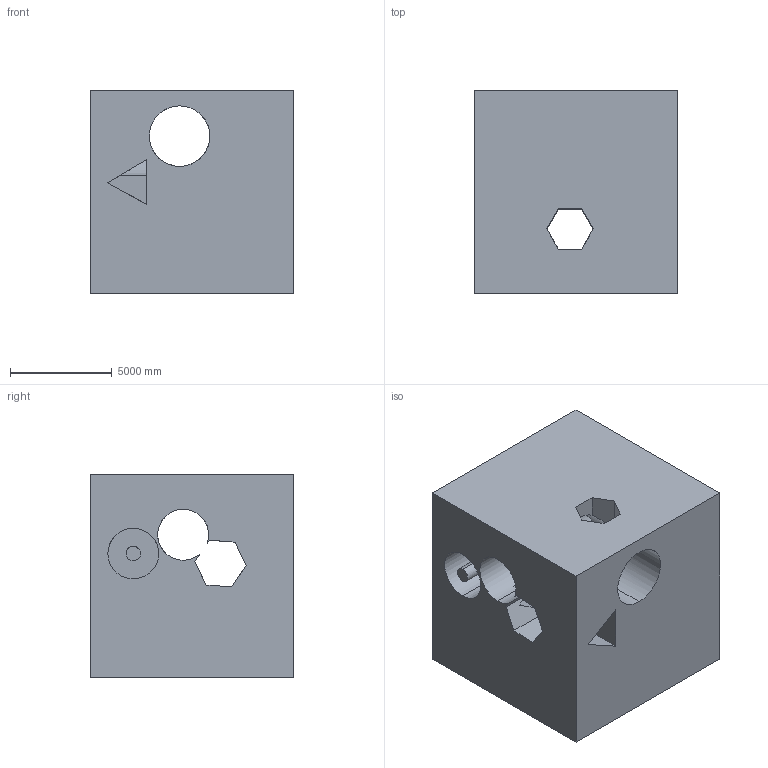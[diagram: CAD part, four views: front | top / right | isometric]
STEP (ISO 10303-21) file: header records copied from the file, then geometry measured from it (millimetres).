
FILE_DESCRIPTION (( 'STEP AP203' ), '1' );
FILE_NAME ('1577.STEP', '2022-08-18T15:54:44', ( 'user' ), ( '' ), 'SwSTEP 2.0', 'SolidWorks 2021', '' );
FILE_SCHEMA (( 'CONFIG_CONTROL_DESIGN' ));
Length unit declared in the file: centimetre
Products named in the file (1): 1577
Bounding box: 10000 x 10000 x 10000 mm (x, y, z)
Volume: 799877344807.4 mm3; surface area: 856781306.2 mm2
Topology: 1 solids, 1 shells, 54 faces, 171 edges, 114 vertices
Faces by surface type: plane 41, cylinder 13
Entity records: 3052 total; most frequent: CARTESIAN_POINT 1472, ORIENTED_EDGE 342, DIRECTION 281, EDGE_CURVE 171, VECTOR 119, LINE 119, VERTEX_POINT 114, AXIS2_PLACEMENT_3D 81
